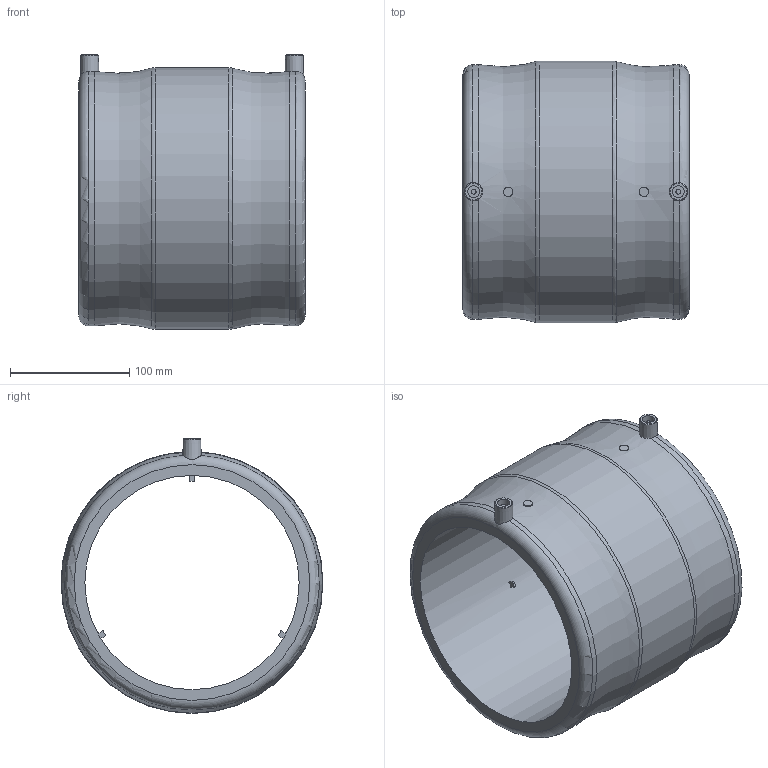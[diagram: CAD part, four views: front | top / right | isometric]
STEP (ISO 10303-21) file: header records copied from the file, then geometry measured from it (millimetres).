
FILE_DESCRIPTION(/* description */ ('Unknown'),/* implementation_level */ '2;1');
FILE_NAME(/* name */ 'MP180C',/* time_stamp */ '2021-02-10T16:54:00+01:00',/* author */ ('Unknown'),/* organization */ ('Unknown'),/* preprocessor_version */ 'ST-DEVELOPER v16.7',/* originating_system */ 'Solid Edge',/* authorisation */ 'Unknown');
FILE_SCHEMA (('AUTOMOTIVE_DESIGN {1 0 10303 214 3 1 1}'));
Length unit declared in the file: millimetre
Products named in the file (1): MP180C
Bounding box: 190 x 220 x 231 mm (x, y, z)
Volume: 2078355.4 mm3; surface area: 255957.3 mm2
Topology: 1 solids, 1 shells, 51 faces, 123 edges, 81 vertices
Faces by surface type: plane 25, cylinder 16, torus 8, cone 2
Full cylindrical faces by diameter (mm): 4 x2, 8 x2, 10 x2, 180 x1, 220 x1
Entity records: 1362 total; most frequent: CARTESIAN_POINT 278, DIRECTION 228, ORIENTED_EDGE 180, AXIS2_PLACEMENT_3D 96, EDGE_CURVE 90, EDGE_LOOP 80, FACE_BOUND 80, VERTEX_POINT 68
